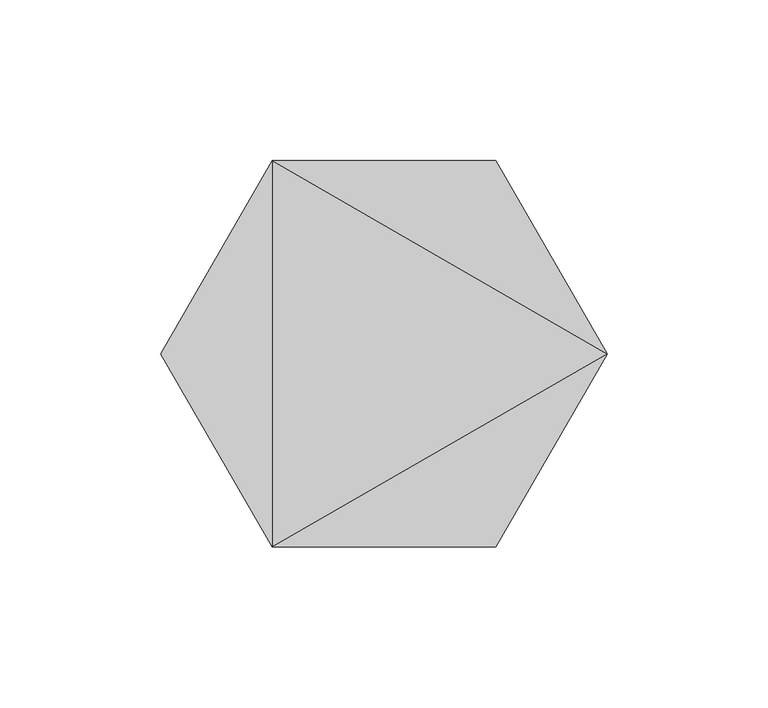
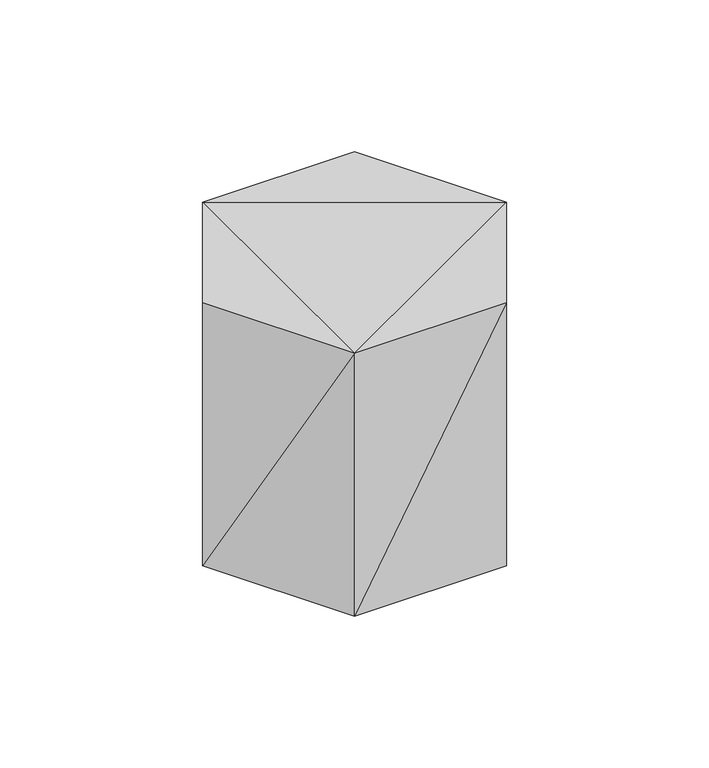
"""IFC4 building model written with IfcOpenShell, lengths in millimetres: geographic element geometry, Enscape AssetDefinition - Canister 02 : Enscape AssetDefinition - Canister 02."""

from ifc_helpers import new_model, si_unit, origin, place, context, project, spatial, faceted_brep, source, transform, mapped, element, save


def geographic_element_e3092fa0(model_context):
    return source(origin(), model_context, "Body", "Brep", [
        faceted_brep([(69.3772286, -0.0049505, -0.0831683), (34.6881188, -60.0881204, -0.0831683), (-34.6891098, -60.0881204, -0.0831683), (69.3772286, -0.0049505, 126.7722696), (34.6881188, 60.0772277, 126.7722696), (34.6881188, 60.0772277, -0.0831683), (-34.6891098, 60.0772277, 126.7722696), (-34.6891098, 60.0772277, -0.0831683), (-69.3782121, -0.0049505, 126.7722696), (-69.3782121, -0.0049505, -0.0831683), (-34.6891098, -60.0881204, 126.7722696), (34.6881188, -60.0881204, 126.7722696)], [[[0, 1, 2]], [[3, 0, 4]], [[4, 5, 6]], [[6, 7, 8]], [[8, 9, 10]], [[10, 2, 11]], [[11, 1, 3]], [[10, 11, 3]], [[7, 2, 9]], [[0, 7, 5]], [[0, 2, 7]], [[4, 0, 5]], [[6, 5, 7]], [[8, 7, 9]], [[10, 9, 2]], [[11, 2, 1]], [[3, 1, 0]], [[6, 3, 4]], [[10, 6, 8]], [[10, 3, 6]]]),
    ])


if __name__ == "__main__":
    model = new_model("IFC4")
    model_context = context("Model", 3, world=origin())
    ifc_project = project(units=[si_unit("LENGTHUNIT", "METRE", prefix="MILLI")], contexts=[model_context])
    site = spatial("IfcSite", under=ifc_project)
    building = spatial("IfcBuilding", under=site)
    placement = place(None, origin())
    geographic_element_shape = geographic_element_e3092fa0(model_context)
    element("IfcGeographicElement", 1, ObjectType="Enscape AssetDefinition - Canister 02 : Enscape AssetDefinition - Canister 02", at=placement, inside=building, context=model_context, shape_type="MappedRepresentation", body=[
        mapped(geographic_element_shape, transform((0.0, 0.0, 0.0), x_axis=(1.0, 0.0, 0.0), y_axis=(0.0, 1.0, 0.0), z_axis=(0.0, 0.0, 1.0))),
    ])
    save(model, "model.ifc")
